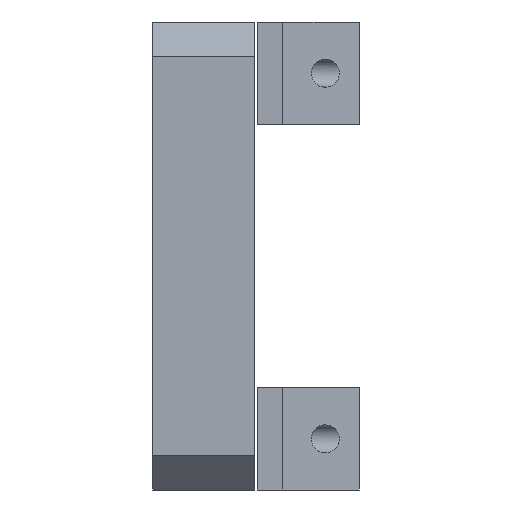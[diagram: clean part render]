
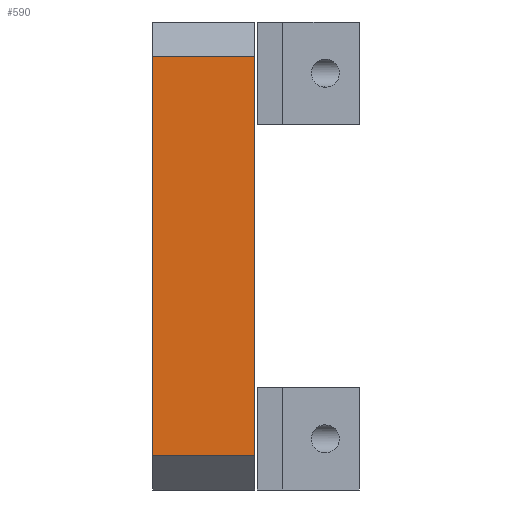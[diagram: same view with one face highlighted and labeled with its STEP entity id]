
A CAD part, left-side view. The second image highlights one B-rep face of the part: STEP entity #590.
In plain terms, the highlighted planar face has unit normal (-1, 0, 0).
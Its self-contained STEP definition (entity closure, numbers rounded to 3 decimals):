
#302 = VERTEX_POINT ( 'NONE', #1902 ) ;
#339 = LINE ( 'NONE', #2628, #341 ) ;
#341 = VECTOR ( 'NONE', #2629, 1000. ) ;
#345 = LINE ( 'NONE', #2649, #348 ) ;
#348 = VECTOR ( 'NONE', #2650, 1000. ) ;
#384 = LINE ( 'NONE', #2710, #387 ) ;
#387 = VECTOR ( 'NONE', #2711, 1000. ) ;
#590 = ADVANCED_FACE ( 'NONE', ( #947 ), #1847, .F. ) ;
#651 = VERTEX_POINT ( 'NONE', #1353 ) ;
#663 = VERTEX_POINT ( 'NONE', #1359 ) ;
#694 = VERTEX_POINT ( 'NONE', #1385 ) ;
#947 = FACE_OUTER_BOUND ( 'NONE', #1761, .T. ) ;
#1353 = CARTESIAN_POINT ( 'NONE',  ( 0., 12., -23.5 ) ) ;
#1359 = CARTESIAN_POINT ( 'NONE',  ( 0., 0., 23.5 ) ) ;
#1385 = CARTESIAN_POINT ( 'NONE',  ( 0., 0., -23.5 ) ) ;
#1438 = DIRECTION ( 'NONE',  ( 0., 0., 1. ) ) ;
#1442 = CARTESIAN_POINT ( 'NONE',  ( 0., 12., 0. ) ) ;
#1524 = AXIS2_PLACEMENT_3D ( 'NONE', #1840, #1849, #1850 ) ;
#1634 = EDGE_CURVE ( 'NONE', #651, #302, #2413, .T. ) ;
#1761 = EDGE_LOOP ( 'NONE', ( #2490, #2446, #2447, #2494 ) ) ;
#1840 = CARTESIAN_POINT ( 'NONE',  ( 0., 12., 0. ) ) ;
#1847 = PLANE ( 'NONE',  #1524 ) ;
#1849 = DIRECTION ( 'NONE',  ( 1., 0., 0. ) ) ;
#1850 = DIRECTION ( 'NONE',  ( 0., 0., -1. ) ) ;
#1866 = EDGE_CURVE ( 'NONE', #694, #663, #339, .T. ) ;
#1870 = EDGE_CURVE ( 'NONE', #302, #663, #345, .T. ) ;
#1895 = EDGE_CURVE ( 'NONE', #651, #694, #384, .T. ) ;
#1902 = CARTESIAN_POINT ( 'NONE',  ( 0., 12., 23.5 ) ) ;
#2413 = LINE ( 'NONE', #1442, #2420 ) ;
#2420 = VECTOR ( 'NONE', #1438, 1000. ) ;
#2446 = ORIENTED_EDGE ( 'NONE', *, *, #1895, .T. ) ;
#2447 = ORIENTED_EDGE ( 'NONE', *, *, #1866, .T. ) ;
#2490 = ORIENTED_EDGE ( 'NONE', *, *, #1634, .F. ) ;
#2494 = ORIENTED_EDGE ( 'NONE', *, *, #1870, .F. ) ;
#2628 = CARTESIAN_POINT ( 'NONE',  ( 0., 0., 0. ) ) ;
#2629 = DIRECTION ( 'NONE',  ( 0., 0., 1. ) ) ;
#2649 = CARTESIAN_POINT ( 'NONE',  ( 0., 12., 23.5 ) ) ;
#2650 = DIRECTION ( 'NONE',  ( 0., -1., 0. ) ) ;
#2710 = CARTESIAN_POINT ( 'NONE',  ( 0., 12., -23.5 ) ) ;
#2711 = DIRECTION ( 'NONE',  ( 0., -1., 0. ) ) ;
